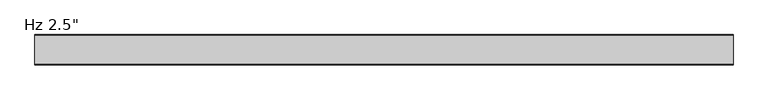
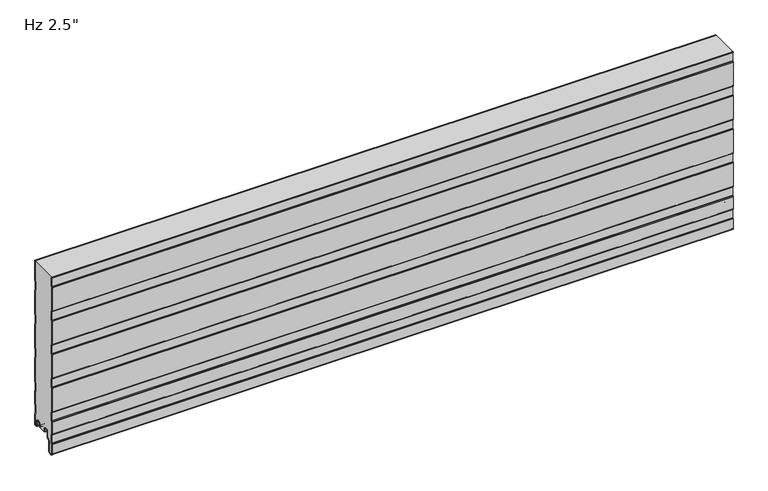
"""IFC4 building model written with IfcOpenShell, lengths in millimetres: plate geometry."""

from ifc_helpers import new_model, si_unit, point, frame, frame_2d, origin, place, context, project, spatial, polyline, circle_curve, trimmed, segment, composite_curve, outline, extrude, source, transform, mapped, element, save
from ifc_brep_helpers import plane_surface, cylinder_surface, revolved_surface, advanced_brep


def plate_c5a37403(model_context):
    return source(origin(), model_context, "Body", "SolidModel", [
        extrude(outline(composite_curve([segment(trimmed(circle_curve(frame_2d((-62.0998717, -10.6415934)), 1.3998661), [point((-63.4997378, -10.6415934))], [point((-63.0324955, -9.5976403))], False, "CARTESIAN"), True, "CONTINUOUS"), segment(polyline([(-63.0324955, -9.5976403), (-62.2997693, -8.8649141), (-62.2997693, 10.0260713), (-63.0327349, 10.7590369)]), True, "CONTINUOUS"), segment(trimmed(circle_curve(frame_2d((-62.1000237, 11.8030877)), 1.3999972), [point((-63.0327349, 10.7590369))], [point((-63.5, 11.810741))], False, "CARTESIAN"), True, "CONTINUOUS"), segment(polyline([(-63.5, 11.810741), (-63.5, 40.1582542)]), True, "CONTINUOUS"), segment(trimmed(circle_curve(frame_2d((-62.1000028, 40.1582542)), 1.3999972), [point((-63.5, 40.1582542))], [point((-63.032714, 41.202305))], False, "CARTESIAN"), True, "CONTINUOUS"), segment(polyline([(-63.032714, 41.202305), (-62.2997693, 41.9352497), (-62.2997693, 60.8259189), (-63.0327349, 61.5588845)]), True, "CONTINUOUS"), segment(trimmed(circle_curve(frame_2d((-62.1000237, 62.6029353)), 1.3999972), [point((-63.0327349, 61.5588845))], [point((-63.5, 62.6105886))], False, "CARTESIAN"), True, "CONTINUOUS"), segment(polyline([(-63.5, 62.6105886), (-63.5, 116.3581018)]), True, "CONTINUOUS"), segment(trimmed(circle_curve(frame_2d((-62.1000028, 116.3581018)), 1.3999972), [point((-63.5, 116.3581018))], [point((-63.032714, 117.4021526))], False, "CARTESIAN"), True, "CONTINUOUS"), segment(polyline([(-63.032714, 117.4021526), (-62.2997693, 118.1350973), (-62.2997693, 137.0257665), (-63.0327349, 137.7587321)]), True, "CONTINUOUS"), segment(trimmed(circle_curve(frame_2d((-62.1000237, 138.8027829)), 1.3999972), [point((-63.0327349, 137.7587321))], [point((-63.5, 138.8104362))], False, "CARTESIAN"), True, "CONTINUOUS"), segment(polyline([(-63.5, 138.8104362), (-63.5, 192.5579494)]), True, "CONTINUOUS"), segment(trimmed(circle_curve(frame_2d((-62.1000028, 192.5579494)), 1.3999972), [point((-63.5, 192.5579494))], [point((-63.032714, 193.6020002))], False, "CARTESIAN"), True, "CONTINUOUS"), segment(polyline([(-63.032714, 193.6020002), (-62.2997693, 194.3349449), (-62.2997693, 213.2256141), (-63.0327349, 213.9585797)]), True, "CONTINUOUS"), segment(trimmed(circle_curve(frame_2d((-62.1000237, 215.0026305)), 1.3999972), [point((-63.0327349, 213.9585797))], [point((-63.5, 215.0102838))], False, "CARTESIAN"), True, "CONTINUOUS"), segment(polyline([(-63.5, 215.0102838), (-63.5, 268.757797)]), True, "CONTINUOUS"), segment(trimmed(circle_curve(frame_2d((-62.1000028, 268.757797)), 1.3999972), [point((-63.5, 268.757797))], [point((-63.032714, 269.8018478))], False, "CARTESIAN"), True, "CONTINUOUS"), segment(polyline([(-63.032714, 269.8018478), (-62.2997693, 270.5347925), (-62.2997693, 289.4254617), (-63.0327349, 290.1584273)]), True, "CONTINUOUS"), segment(trimmed(circle_curve(frame_2d((-62.1000237, 291.2024781)), 1.3999972), [point((-63.0327349, 290.1584273))], [point((-63.5, 291.2101314))], False, "CARTESIAN"), True, "CONTINUOUS"), segment(polyline([(-63.5, 291.2101314), (-63.5, 344.9576446)]), True, "CONTINUOUS"), segment(trimmed(circle_curve(frame_2d((-62.1000028, 344.9576446)), 1.3999972), [point((-63.5, 344.9576446))], [point((-63.032714, 346.0016954))], False, "CARTESIAN"), True, "CONTINUOUS"), segment(polyline([(-63.032714, 346.0016954), (-62.2997693, 346.7346401), (-62.2997693, 365.6253093), (-63.0327349, 366.3582749)]), True, "CONTINUOUS"), segment(trimmed(circle_curve(frame_2d((-62.1000237, 367.4023257)), 1.3999972), [point((-63.0327349, 366.3582749))], [point((-63.5, 367.409979))], False, "CARTESIAN"), True, "CONTINUOUS"), segment(polyline([(-63.5, 367.409979), (-63.5, 368.0), (-62.5, 368.0), (-62.5, 367.240544), (-61.2997693, 366.0403133), (-61.2997693, 346.3209008), (-62.5, 345.1206701), (-62.5, 291.0405383), (-61.2997693, 289.8403076), (-61.2997693, 270.1208951), (-62.5, 268.9206644), (-62.5, 214.8405326), (-61.2997693, 213.6403019), (-61.2997693, 193.9208894), (-62.5, 192.7206587), (-62.5, 138.6405269), (-61.2997693, 137.4402962), (-61.2997693, 117.7208837), (-62.5, 116.520653), (-62.5, 62.4405213), (-61.2997693, 61.2402905), (-61.2997693, 41.520878), (-62.5, 40.3206473), (-62.5, 11.6405156), (-61.2997693, 10.4402849), (-61.2997693, -9.2791277), (-62.4997378, -10.4790962), (-62.4997378, -32.4521176)]), True, "CONTINUOUS"), segment(trimmed(circle_curve(frame_2d((-59.9294985, -32.4521176)), 2.5702393), [point((-62.4997378, -32.4521176))], [point((-59.7054129, -35.0125699))], True, "CARTESIAN"), True, "CONTINUOUS"), segment(polyline([(-59.7054129, -35.0125699), (-54.723592, -34.5765709)]), True, "CONTINUOUS"), segment(trimmed(circle_curve(frame_2d((-55.2049826, -31.9198392)), 2.6999926), [point((-54.723592, -34.5765709))], [point((-52.50499, -31.9198392))], True, "CARTESIAN"), True, "CONTINUOUS"), segment(polyline([(-52.50499, -31.9198392), (-52.50499, -9.8247096), (-47.0029189, -4.3226385)]), True, "CONTINUOUS"), segment(trimmed(circle_curve(frame_2d((-48.2049966, -3.1205608)), 1.6999946), [point((-47.0029189, -4.3226385))], [point((-46.505002, -3.1205608))], True, "CARTESIAN"), True, "CONTINUOUS"), segment(polyline([(-46.505002, -3.1205608), (-46.505002, 8.6903283)]), True, "CONTINUOUS"), segment(trimmed(circle_curve(frame_2d((-43.1550067, 8.6903283)), 3.3499953), [point((-46.505002, 8.6903283))], [point((-43.1550067, 12.0403236))], False, "CARTESIAN"), True, "CONTINUOUS"), segment(polyline([(-43.1550067, 12.0403236), (-38.7550155, 12.0403236)]), True, "CONTINUOUS"), segment(trimmed(circle_curve(frame_2d((-38.7550155, 8.6903283)), 3.3499953), [point((-38.7550155, 12.0403236))], [point((-35.4050202, 8.6903283))], False, "CARTESIAN"), True, "CONTINUOUS"), segment(polyline([(-35.4050202, 8.6903283), (-35.4050202, 5.9912173), (-34.0065413, 5.9912173), (-34.0065413, 2.2328239)]), True, "CONTINUOUS"), segment(trimmed(circle_curve(frame_2d((-35.206538, 2.2313092)), 1.1999976), [point((-34.0065413, 2.2328239))], [point((-35.1760161, 1.0316999))], False, "CARTESIAN"), True, "CONTINUOUS"), segment(trimmed(circle_curve(frame_2d((-35.206538, 2.2313092)), 1.1999976), [point((-35.1760161, 1.0316999))], [point((-36.4050202, 2.1710221))], False, "CARTESIAN"), True, "CONTINUOUS"), segment(polyline([(-36.4050202, 2.1710221), (-36.4050202, 8.6903283)]), True, "CONTINUOUS"), segment(trimmed(circle_curve(frame_2d((-38.7550155, 8.6903283)), 2.3499953), [point((-36.4050202, 8.6903283))], [point((-38.7550155, 11.0403236))], True, "CARTESIAN"), True, "CONTINUOUS"), segment(polyline([(-38.7550155, 11.0403236), (-43.1550067, 11.0403236)]), True, "CONTINUOUS"), segment(trimmed(circle_curve(frame_2d((-43.1550067, 8.6903283)), 2.3499953), [point((-43.1550067, 11.0403236))], [point((-45.505002, 8.6903283))], True, "CARTESIAN"), True, "CONTINUOUS"), segment(polyline([(-45.505002, 8.6903283), (-45.505002, -3.1205608)]), True, "CONTINUOUS"), segment(trimmed(circle_curve(frame_2d((-48.2049966, -3.1205608)), 2.6999946), [point((-45.505002, -3.1205608))], [point((-46.2958121, -5.0297453))], False, "CARTESIAN"), True, "CONTINUOUS"), segment(polyline([(-46.2958121, -5.0297453), (-51.1242296, -9.8581627)]), True, "CONTINUOUS"), segment(trimmed(circle_curve(frame_2d((-50.2049926, -10.7773997)), 1.2999974), [point((-51.1242296, -9.8581627))], [point((-51.50499, -10.7773997))], True, "CARTESIAN"), True, "CONTINUOUS"), segment(polyline([(-51.50499, -10.7773997), (-51.50499, -31.9198392)]), True, "CONTINUOUS"), segment(trimmed(circle_curve(frame_2d((-55.2049826, -31.9198392)), 3.6999926), [point((-51.50499, -31.9198392))], [point((-54.5941815, -35.5690675))], False, "CARTESIAN"), True, "CONTINUOUS"), segment(polyline([(-54.5941815, -35.5690675), (-59.6182281, -36.008762)]), True, "CONTINUOUS"), segment(trimmed(circle_curve(frame_2d((-59.9294985, -32.4521176)), 3.5702393), [point((-59.6182281, -36.008762))], [point((-63.4997378, -32.4521176))], False, "CARTESIAN"), True, "CONTINUOUS"), segment(polyline([(-63.4997378, -32.4521176), (-63.4997378, -10.6415934)]), True, "CONTINUOUS")], self_intersect=False)), frame((-730.0, 0.0, 0.0), z_axis=(1.0, 0.0, 0.0), x_axis=(0.0, 1.0, 0.0)), (0.0, 0.0, 1.0), 1460.0),
        advanced_brep(
        [(-730.0, -17.0015159, 2.0313088), (-730.0, -18.0015191, 1.0313115), (-730.0, -19.0015105, 2.0313088), (-730.0, -19.0015105, 6.0315124), (-730.0, -18.0015159, 6.0315124), (-730.0, -18.0015159, 8.7237222), (-730.0, -14.7015202, 12.0237179), (-730.0, -10.301529, 12.0237179), (-730.0, -7.0015335, 8.7237224), (-730.0, -7.0015335, -1.6962565), (-730.0, -5.2315393, -3.4662507), (-730.0, -0.9999916, -3.4662507), (-730.0, -0.9999916, 21.034026), (-730.0, -2.2002307, 22.4196686), (-730.0, -2.2002307, 41.7948349), (-730.0, -1.0, 43.1804678), (-730.0, -1.0, 71.8338832), (-730.0, -2.2002307, 73.2195162), (-730.0, -2.2002307, 92.5946825), (-730.0, -1.0, 93.9803154), (-730.0, -1.0, 148.0337308), (-730.0, -2.2002307, 149.4193638), (-730.0, -2.2002307, 168.7945301), (-730.0, -1.0, 170.180163), (-730.0, -1.0, 224.2335784), (-730.0, -2.2002307, 225.6192114), (-730.0, -2.2002307, 244.9943777), (-730.0, -1.0, 246.3800106), (-730.0, -1.0, 300.433426), (-730.0, -2.2002307, 301.819059), (-730.0, -2.2002307, 321.1942253), (-730.0, -1.0, 322.5798582), (-730.0, -1.0, 368.0), (-730.0, 0.0, 368.0), (-730.0, 0.0, 322.7290094), (-730.0, -0.3417885, 321.8123925), (-730.0, -1.2002307, 320.8213449), (-730.0, -1.2002307, 302.1919394), (-730.0, -0.3417885, 301.2008918), (-730.0, 0.0, 300.2842749), (-730.0, 0.0, 246.5291618), (-730.0, -0.3417885, 245.6125449), (-730.0, -1.2002307, 244.6214973), (-730.0, -1.2002307, 225.9920918), (-730.0, -0.3417885, 225.0010442), (-730.0, 0.0, 224.0844273), (-730.0, 0.0, 170.3293142), (-730.0, -0.3417885, 169.4126973), (-730.0, -1.2002307, 168.4216497), (-730.0, -1.2002307, 149.7922442), (-730.0, -0.3417885, 148.8011966), (-730.0, 0.0, 147.8845797), (-730.0, 0.0, 94.1294666), (-730.0, -0.3417885, 93.2128497), (-730.0, -1.2002307, 92.2218021), (-730.0, -1.2002307, 73.5923966), (-730.0, -0.3417885, 72.601349), (-730.0, 0.0, 71.6847321), (-730.0, 0.0, 43.329619), (-730.0, -0.3417885, 42.4130021), (-730.0, -1.2002307, 41.4219545), (-730.0, -1.2002307, 22.792549), (-730.0, -0.3417885, 21.8015014), (-730.0, 0.0, 20.8847931), (-730.0, 8.4e-06, -3.0662545), (-730.0, -1.3999878, -4.4662507), (-730.0, -5.2315393, -4.4662507), (-730.0, -8.0015335, -1.6962565), (-730.0, -8.0015335, 8.7237224), (-730.0, -10.301529, 11.0237179), (-730.0, -14.7015202, 11.0237179), (-730.0, -17.0015159, 8.7237222), (730.0, -17.0015159, 2.0313088), (730.0, -17.0015159, 8.7237222), (730.0, -14.7015202, 11.0237179), (730.0, -10.301529, 11.0237179), (730.0, -8.0015335, 8.7237224), (730.0, -8.0015335, -1.6962565), (730.0, -5.2315393, -4.4662507), (730.0, -1.3999878, -4.4662507), (730.0, 8.4e-06, -3.0662545), (730.0, 8.4e-06, 20.8848845), (730.0, -0.3417885, 21.8015014), (730.0, -1.2002307, 22.792549), (730.0, -1.2002307, 41.4219545), (730.0, -0.3417885, 42.4130021), (730.0, 0.0, 43.329619), (730.0, 0.0, 71.6847321), (730.0, -0.3417885, 72.601349), (730.0, -1.2002307, 73.5923966), (730.0, -1.2002307, 92.2218021), (730.0, -0.3417885, 93.2128497), (730.0, 0.0, 94.1294666), (730.0, 0.0, 147.8845797), (730.0, -0.3417885, 148.8011966), (730.0, -1.2002307, 149.7922442), (730.0, -1.2002307, 168.4216497), (730.0, -0.3417885, 169.4126973), (730.0, 0.0, 170.3293142), (730.0, 0.0, 224.0844273), (730.0, -0.3417885, 225.0010442), (730.0, -1.2002307, 225.9920918), (730.0, -1.2002307, 244.6214973), (730.0, -0.3417885, 245.6125449), (730.0, 0.0, 246.5291618), (730.0, 0.0, 300.2842749), (730.0, -0.3417885, 301.2008918), (730.0, -1.2002307, 302.1919394), (730.0, -1.2002307, 320.8213449), (730.0, -0.3417885, 321.8123925), (730.0, 0.0, 322.7290094), (730.0, 0.0, 368.0), (730.0, -1.0, 368.0), (730.0, -1.0, 322.5798582), (730.0, -2.2002307, 321.1942253), (730.0, -2.2002307, 301.819059), (730.0, -1.0, 300.433426), (730.0, -1.0, 246.3800106), (730.0, -2.2002307, 244.9943777), (730.0, -2.2002307, 225.6192114), (730.0, -1.0, 224.2335784), (730.0, -1.0, 170.180163), (730.0, -2.2002307, 168.7945301), (730.0, -2.2002307, 149.4193638), (730.0, -1.0, 148.0337308), (730.0, -1.0, 93.9803154), (730.0, -2.2002307, 92.5946825), (730.0, -2.2002307, 73.2195162), (730.0, -1.0, 71.8338832), (730.0, -1.0, 43.1804678), (730.0, -2.2002307, 41.7948349), (730.0, -2.2002307, 22.4196686), (730.0, -0.9999916, 21.034026), (730.0, -0.9999916, -3.4662507), (730.0, -5.2315393, -3.4662507), (730.0, -7.0015335, -1.6962565), (730.0, -7.0015335, 8.7237224), (730.0, -10.301529, 12.0237179), (730.0, -14.7015202, 12.0237179), (730.0, -18.0015159, 8.7237222), (730.0, -18.0015159, 6.0315124), (730.0, -19.0015105, 6.0315124), (730.0, -19.0015105, 2.0313088), (730.0, -18.0015192, 1.0313116)],
        [
            (0, 1, circle_curve(frame((-730.0, -18.0015132, 2.0313088), z_axis=(-1.0, 0.0, 0.0), x_axis=(0.0, 0.0, 1.0)), 0.9999973)),
            (1, 2, circle_curve(frame((-730.0, -18.0015133, 2.0313088), z_axis=(-1.0, 0.0, 0.0), x_axis=(0.0, 0.0, 1.0)), 0.9999972)),
            (2, 3),
            (3, 4),
            (4, 5),
            (5, 6, circle_curve(frame((-730.0, -14.7015202, 8.7237222), z_axis=(-1.0, 0.0, 0.0), x_axis=(0.0, 0.0, 1.0)), 3.2999957)),
            (6, 7),
            (7, 8, circle_curve(frame((-730.0, -10.301529, 8.7237224), z_axis=(-1.0, 0.0, 0.0), x_axis=(0.0, 0.0, 1.0)), 3.2999955)),
            (8, 9),
            (9, 10, circle_curve(frame((-730.0, -5.2315393, -1.6962565), z_axis=(1.0, 0.0, 0.0), x_axis=(0.0, 0.0, 1.0)), 1.7699942)),
            (10, 11),
            (11, 12),
            (12, 13),
            (13, 14),
            (14, 15),
            (15, 16),
            (16, 17),
            (17, 18),
            (18, 19),
            (19, 20),
            (20, 21),
            (21, 22),
            (22, 23),
            (23, 24),
            (24, 25),
            (25, 26),
            (26, 27),
            (27, 28),
            (28, 29),
            (29, 30),
            (30, 31),
            (31, 32),
            (32, 33),
            (33, 34),
            (34, 35, circle_curve(frame((-730.0, -1.3999972, 322.7290094), z_axis=(-1.0, 0.0, 0.0), x_axis=(0.0, 0.0, 1.0)), 1.3999972)),
            (35, 36),
            (36, 37),
            (37, 38),
            (38, 39, circle_curve(frame((-730.0, -1.3999972, 300.2842749), z_axis=(-1.0, 0.0, 0.0), x_axis=(0.0, 0.0, 1.0)), 1.3999972)),
            (39, 40),
            (40, 41, circle_curve(frame((-730.0, -1.3999972, 246.5291618), z_axis=(-1.0, 0.0, 0.0), x_axis=(0.0, 0.0, 1.0)), 1.3999972)),
            (41, 42),
            (42, 43),
            (43, 44),
            (44, 45, circle_curve(frame((-730.0, -1.3999972, 224.0844273), z_axis=(-1.0, 0.0, 0.0), x_axis=(0.0, 0.0, 1.0)), 1.3999972)),
            (45, 46),
            (46, 47, circle_curve(frame((-730.0, -1.3999972, 170.3293142), z_axis=(-1.0, 0.0, 0.0), x_axis=(0.0, 0.0, 1.0)), 1.3999972)),
            (47, 48),
            (48, 49),
            (49, 50),
            (50, 51, circle_curve(frame((-730.0, -1.3999972, 147.8845797), z_axis=(-1.0, 0.0, 0.0), x_axis=(0.0, 0.0, 1.0)), 1.3999972)),
            (51, 52),
            (52, 53, circle_curve(frame((-730.0, -1.3999972, 94.1294666), z_axis=(-1.0, 0.0, 0.0), x_axis=(0.0, 0.0, 1.0)), 1.3999972)),
            (53, 54),
            (54, 55),
            (55, 56),
            (56, 57, circle_curve(frame((-730.0, -1.3999972, 71.6847321), z_axis=(-1.0, 0.0, 0.0), x_axis=(0.0, 0.0, 1.0)), 1.3999972)),
            (57, 58),
            (58, 59, circle_curve(frame((-730.0, -1.3999972, 43.329619), z_axis=(-1.0, 0.0, 0.0), x_axis=(0.0, 0.0, 1.0)), 1.3999972)),
            (59, 60),
            (60, 61),
            (61, 62),
            (62, 63, circle_curve(frame((-730.0, -1.3999972, 20.8848845), z_axis=(-1.0, 0.0, 0.0), x_axis=(0.0, 0.0, 1.0)), 1.3999972)),
            (63, 64),
            (64, 65, circle_curve(frame((-730.0, -1.3999878, -3.0662545), z_axis=(-1.0, 0.0, 0.0), x_axis=(0.0, 0.0, 1.0)), 1.3999962)),
            (65, 66),
            (66, 67, circle_curve(frame((-730.0, -5.2315393, -1.6962565), z_axis=(-1.0, 0.0, 0.0), x_axis=(0.0, 0.0, 1.0)), 2.7699942)),
            (67, 68),
            (68, 69, circle_curve(frame((-730.0, -10.301529, 8.7237224), z_axis=(1.0, 0.0, 0.0), x_axis=(0.0, 0.0, 1.0)), 2.2999955)),
            (69, 70),
            (70, 71, circle_curve(frame((-730.0, -14.7015202, 8.7237222), z_axis=(1.0, 0.0, 0.0), x_axis=(0.0, 0.0, 1.0)), 2.2999957)),
            (71, 0),
            (72, 73),
            (73, 74, circle_curve(frame((730.0, -14.7015202, 8.7237222), z_axis=(-1.0, 0.0, 0.0), x_axis=(0.0, 0.0, 1.0)), 2.2999957)),
            (74, 75),
            (75, 76, circle_curve(frame((730.0, -10.301529, 8.7237224), z_axis=(-1.0, 0.0, 0.0), x_axis=(0.0, 0.0, 1.0)), 2.2999955)),
            (76, 77),
            (77, 78, circle_curve(frame((730.0, -5.2315393, -1.6962565), z_axis=(1.0, 0.0, 0.0), x_axis=(0.0, 0.0, 1.0)), 2.7699942)),
            (78, 79),
            (79, 80, circle_curve(frame((730.0, -1.3999878, -3.0662545), z_axis=(1.0, 0.0, 0.0), x_axis=(0.0, 0.0, 1.0)), 1.3999962)),
            (80, 81),
            (81, 82, circle_curve(frame((730.0, -1.3999972, 20.8848845), z_axis=(1.0, 0.0, 0.0), x_axis=(0.0, 0.0, 1.0)), 1.3999972)),
            (82, 83),
            (83, 84),
            (84, 85),
            (85, 86, circle_curve(frame((730.0, -1.3999972, 43.329619), z_axis=(1.0, 0.0, 0.0), x_axis=(0.0, 0.0, 1.0)), 1.3999972)),
            (86, 87),
            (87, 88, circle_curve(frame((730.0, -1.3999972, 71.6847321), z_axis=(1.0, 0.0, 0.0), x_axis=(0.0, 0.0, 1.0)), 1.3999972)),
            (88, 89),
            (89, 90),
            (90, 91),
            (91, 92, circle_curve(frame((730.0, -1.3999972, 94.1294666), z_axis=(1.0, 0.0, 0.0), x_axis=(0.0, 0.0, 1.0)), 1.3999972)),
            (92, 93),
            (93, 94, circle_curve(frame((730.0, -1.3999972, 147.8845797), z_axis=(1.0, 0.0, 0.0), x_axis=(0.0, 0.0, 1.0)), 1.3999972)),
            (94, 95),
            (95, 96),
            (96, 97),
            (97, 98, circle_curve(frame((730.0, -1.3999972, 170.3293142), z_axis=(1.0, 0.0, 0.0), x_axis=(0.0, 0.0, 1.0)), 1.3999972)),
            (98, 99),
            (99, 100, circle_curve(frame((730.0, -1.3999972, 224.0844273), z_axis=(1.0, 0.0, 0.0), x_axis=(0.0, 0.0, 1.0)), 1.3999972)),
            (100, 101),
            (101, 102),
            (102, 103),
            (103, 104, circle_curve(frame((730.0, -1.3999972, 246.5291618), z_axis=(1.0, 0.0, 0.0), x_axis=(0.0, 0.0, 1.0)), 1.3999972)),
            (104, 105),
            (105, 106, circle_curve(frame((730.0, -1.3999972, 300.2842749), z_axis=(1.0, 0.0, 0.0), x_axis=(0.0, 0.0, 1.0)), 1.3999972)),
            (106, 107),
            (107, 108),
            (108, 109),
            (109, 110, circle_curve(frame((730.0, -1.3999972, 322.7290094), z_axis=(1.0, 0.0, 0.0), x_axis=(0.0, 0.0, 1.0)), 1.3999972)),
            (110, 111),
            (111, 112),
            (112, 113),
            (113, 114),
            (114, 115),
            (115, 116),
            (116, 117),
            (117, 118),
            (118, 119),
            (119, 120),
            (120, 121),
            (121, 122),
            (122, 123),
            (123, 124),
            (124, 125),
            (125, 126),
            (126, 127),
            (127, 128),
            (128, 129),
            (129, 130),
            (130, 131),
            (131, 132),
            (132, 133),
            (133, 134),
            (134, 135, circle_curve(frame((730.0, -5.2315393, -1.6962565), z_axis=(-1.0, 0.0, 0.0), x_axis=(0.0, 0.0, 1.0)), 1.7699942)),
            (135, 136),
            (136, 137, circle_curve(frame((730.0, -10.301529, 8.7237224), z_axis=(1.0, 0.0, 0.0), x_axis=(0.0, 0.0, 1.0)), 3.2999955)),
            (137, 138),
            (138, 139, circle_curve(frame((730.0, -14.7015202, 8.7237222), z_axis=(1.0, 0.0, 0.0), x_axis=(0.0, 0.0, 1.0)), 3.2999957)),
            (139, 140),
            (140, 141),
            (141, 142),
            (142, 143, circle_curve(frame((730.0, -18.0015133, 2.0313088), z_axis=(1.0, 0.0, 0.0), x_axis=(0.0, 0.0, 1.0)), 0.9999972)),
            (143, 72, circle_curve(frame((730.0, -18.0015132, 2.0313088), z_axis=(1.0, 0.0, 0.0), x_axis=(0.0, 0.0, 1.0)), 0.9999973)),
            (32, 112),
            (111, 33),
            (67, 77),
            (76, 68),
            (0, 72),
            (143, 1),
            (71, 73),
            (70, 74),
            (75, 69),
            (65, 79),
            (78, 66),
            (64, 80),
            (63, 81),
            (2, 142),
            (141, 3),
            (56, 88),
            (87, 57),
            (61, 83),
            (82, 62),
            (60, 84),
            (58, 86),
            (85, 59),
            (50, 94),
            (93, 51),
            (54, 90),
            (89, 55),
            (52, 92),
            (91, 53),
            (44, 100),
            (99, 45),
            (48, 96),
            (95, 49),
            (46, 98),
            (97, 47),
            (38, 106),
            (105, 39),
            (42, 102),
            (101, 43),
            (40, 104),
            (103, 41),
            (36, 108),
            (107, 37),
            (34, 110),
            (109, 35),
            (27, 117),
            (116, 28),
            (115, 29),
            (114, 30),
            (113, 31),
            (26, 118),
            (25, 119),
            (24, 120),
            (23, 121),
            (22, 122),
            (21, 123),
            (20, 124),
            (19, 125),
            (18, 126),
            (17, 127),
            (16, 128),
            (15, 129),
            (14, 130),
            (140, 4),
            (139, 5),
            (138, 6),
            (137, 7),
            (136, 8),
            (135, 9),
            (12, 132),
            (131, 13),
            (11, 133),
            (10, 134),
        ],
        [
            plane_surface(frame((-730.0, 0.0, 508.0), z_axis=(-1.0, 0.0, 0.0), x_axis=(0.0, 1.0, 0.0))),
            plane_surface(frame((730.0, 0.0, 508.0), z_axis=(1.0, 0.0, 0.0), x_axis=(0.0, 1.0, 0.0))),
            plane_surface(frame((730.0, 10.0, 368.0), z_axis=(0.0, 0.0, 1.0), x_axis=(-1.0, 0.0, 0.0))),
            plane_surface(frame((-730.0, -8.0015335, 8.7237224), z_axis=(0.0, -1.0, 0.0), x_axis=(1.0, 0.0, 0.0))),
            cylinder_surface(frame((-730.0, -18.0015132, 2.0313088), z_axis=(-1.0, 0.0, 0.0), x_axis=(0.0, 0.0, 1.0)), 0.9999973),
            plane_surface(frame((-730.0, -17.0015159, 2.0313088), z_axis=(0.0, 1.0, 0.0), x_axis=(1.0, 0.0, 0.0))),
            revolved_surface(polyline([(730.0, -14.7015202, 11.0237179), (-730.0, -14.7015202, 11.0237179)]), (-730.0, -14.7015202, 8.7237222), (1.0, 0.0, 0.0)),
            revolved_surface(polyline([(730.0, -10.301529, 11.0237179), (-730.0, -10.301529, 11.0237179)]), (-730.0, -10.301529, 8.7237224), (1.0, 0.0, 0.0)),
            plane_surface(frame((-730.0, -14.7015202, 11.0237179), z_axis=(0.0, 0.0, -1.0), x_axis=(1.0, 0.0, 0.0))),
            plane_surface(frame((-730.0, -5.2315393, -4.4662507), z_axis=(0.0, 0.0, -1.0), x_axis=(1.0, 0.0, 0.0))),
            cylinder_surface(frame((-730.0, -1.3999878, -3.0662545), z_axis=(-1.0, 0.0, 0.0), x_axis=(0.0, 0.0, 1.0)), 1.3999962),
            cylinder_surface(frame((-730.0, -5.2315393, -1.6962565), z_axis=(-1.0, 0.0, 0.0), x_axis=(0.0, 0.0, 1.0)), 2.7699942),
            plane_surface(frame((-730.0, 8.4e-06, -3.0662545), z_axis=(0.0, 1.0, 0.0), x_axis=(1.0, 0.0, 0.0))),
            plane_surface(frame((-730.0, -19.0015105, 6.0315124), z_axis=(0.0, -1.0, 0.0), x_axis=(1.0, 0.0, 0.0))),
            cylinder_surface(frame((-730.0, -18.0015133, 2.0313088), z_axis=(-1.0, 0.0, 0.0), x_axis=(0.0, 0.0, 1.0)), 0.9999972),
            cylinder_surface(frame((-730.0, -1.3999972, 71.6847321), z_axis=(-1.0, 0.0, 0.0), x_axis=(0.0, 0.0, 1.0)), 1.3999972),
            plane_surface(frame((-730.0, -0.3417885, 21.8015014), z_axis=(0.0, 0.755864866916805, 0.6547276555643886), x_axis=(1.0, 0.0, 0.0))),
            plane_surface(frame((-730.0, -1.2002307, 32.1072517), z_axis=(0.0, 1.0, 0.0), x_axis=(1.0, 0.0, 0.0))),
            cylinder_surface(frame((-730.0, -1.3999972, 20.8848845), z_axis=(-1.0, 0.0, 0.0), x_axis=(0.0, 0.0, 1.0)), 1.3999972),
            cylinder_surface(frame((-730.0, -1.3999972, 43.329619), z_axis=(-1.0, 0.0, 0.0), x_axis=(0.0, 0.0, 1.0)), 1.3999972),
            plane_surface(frame((-730.0, -1.2002307, 41.4219545), z_axis=(0.0, 0.755864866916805, -0.6547276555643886), x_axis=(1.0, 0.0, 0.0))),
            cylinder_surface(frame((-730.0, -1.3999972, 147.8845797), z_axis=(-1.0, 0.0, 0.0), x_axis=(0.0, 0.0, 1.0)), 1.3999972),
            plane_surface(frame((-730.0, -1.2002307, 82.9070993), z_axis=(0.0, 1.0, 0.0), x_axis=(1.0, 0.0, 0.0))),
            cylinder_surface(frame((-730.0, -1.3999972, 94.1294666), z_axis=(-1.0, 0.0, 0.0), x_axis=(0.0, 0.0, 1.0)), 1.3999972),
            plane_surface(frame((-730.0, -0.3417885, 72.601349), z_axis=(0.0, 0.755864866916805, 0.6547276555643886), x_axis=(1.0, 0.0, 0.0))),
            plane_surface(frame((-730.0, -1.2002307, 92.2218021), z_axis=(0.0, 0.755864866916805, -0.6547276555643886), x_axis=(1.0, 0.0, 0.0))),
            plane_surface(frame((-730.0, 0.0, 43.329619), z_axis=(0.0, 1.0, 0.0), x_axis=(1.0, 0.0, 0.0))),
            cylinder_surface(frame((-730.0, -1.3999972, 224.0844273), z_axis=(-1.0, 0.0, 0.0), x_axis=(0.0, 0.0, 1.0)), 1.3999972),
            plane_surface(frame((-730.0, -1.2002307, 159.1069469), z_axis=(0.0, 1.0, 0.0), x_axis=(1.0, 0.0, 0.0))),
            cylinder_surface(frame((-730.0, -1.3999972, 170.3293142), z_axis=(-1.0, 0.0, 0.0), x_axis=(0.0, 0.0, 1.0)), 1.3999972),
            plane_surface(frame((-730.0, -0.3417885, 148.8011966), z_axis=(0.0, 0.755864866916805, 0.6547276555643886), x_axis=(1.0, 0.0, 0.0))),
            plane_surface(frame((-730.0, -1.2002307, 168.4216497), z_axis=(0.0, 0.755864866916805, -0.6547276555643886), x_axis=(1.0, 0.0, 0.0))),
            plane_surface(frame((-730.0, 0.0, 94.1294666), z_axis=(0.0, 1.0, 0.0), x_axis=(1.0, 0.0, 0.0))),
            cylinder_surface(frame((-730.0, -1.3999972, 300.2842749), z_axis=(-1.0, 0.0, 0.0), x_axis=(0.0, 0.0, 1.0)), 1.3999972),
            plane_surface(frame((-730.0, -1.2002307, 235.3067945), z_axis=(0.0, 1.0, 0.0), x_axis=(1.0, 0.0, 0.0))),
            cylinder_surface(frame((-730.0, -1.3999972, 246.5291618), z_axis=(-1.0, 0.0, 0.0), x_axis=(0.0, 0.0, 1.0)), 1.3999972),
            plane_surface(frame((-730.0, -0.3417885, 225.0010442), z_axis=(0.0, 0.755864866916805, 0.6547276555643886), x_axis=(1.0, 0.0, 0.0))),
            plane_surface(frame((-730.0, -1.2002307, 244.6214973), z_axis=(0.0, 0.755864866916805, -0.6547276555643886), x_axis=(1.0, 0.0, 0.0))),
            plane_surface(frame((-730.0, 0.0, 170.3293142), z_axis=(0.0, 1.0, 0.0), x_axis=(1.0, 0.0, 0.0))),
            plane_surface(frame((-730.0, -1.2002307, 311.5066421), z_axis=(0.0, 1.0, 0.0), x_axis=(1.0, 0.0, 0.0))),
            cylinder_surface(frame((-730.0, -1.3999972, 322.7290094), z_axis=(-1.0, 0.0, 0.0), x_axis=(0.0, 0.0, 1.0)), 1.3999972),
            plane_surface(frame((-730.0, -0.3417885, 301.2008918), z_axis=(0.0, 0.755864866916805, 0.6547276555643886), x_axis=(1.0, 0.0, 0.0))),
            plane_surface(frame((-730.0, -1.2002307, 320.8213449), z_axis=(0.0, 0.755864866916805, -0.6547276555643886), x_axis=(1.0, 0.0, 0.0))),
            plane_surface(frame((-730.0, 0.0, 246.5291618), z_axis=(0.0, 1.0, 0.0), x_axis=(1.0, 0.0, 0.0))),
            plane_surface(frame((-730.0, 0.0, 322.7290094), z_axis=(0.0, 1.0, 0.0), x_axis=(1.0, 0.0, 0.0))),
            plane_surface(frame((-730.0, -1.0, 300.433426), z_axis=(0.0, -1.0, 0.0), x_axis=(1.0, 0.0, 0.0))),
            plane_surface(frame((-730.0, -2.2002307, 301.819059), z_axis=(0.0, -0.755864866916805, -0.6547276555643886), x_axis=(1.0, 0.0, 0.0))),
            plane_surface(frame((-730.0, -2.2002307, 321.1942253), z_axis=(0.0, -1.0, 0.0), x_axis=(1.0, 0.0, 0.0))),
            plane_surface(frame((-730.0, -1.0, 322.5798582), z_axis=(0.0, -0.755864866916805, 0.6547276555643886), x_axis=(1.0, 0.0, 0.0))),
            plane_surface(frame((-730.0, -1.0, 376.6332736), z_axis=(0.0, -1.0, 0.0), x_axis=(1.0, 0.0, 0.0))),
            plane_surface(frame((-730.0, -1.0, 246.3800106), z_axis=(0.0, -0.755864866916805, 0.6547276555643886), x_axis=(1.0, 0.0, 0.0))),
            plane_surface(frame((-730.0, -2.2002307, 244.9943777), z_axis=(0.0, -1.0, 0.0), x_axis=(1.0, 0.0, 0.0))),
            plane_surface(frame((-730.0, -2.2002307, 225.6192114), z_axis=(0.0, -0.755864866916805, -0.6547276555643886), x_axis=(1.0, 0.0, 0.0))),
            plane_surface(frame((-730.0, -1.0, 224.2335784), z_axis=(0.0, -1.0, 0.0), x_axis=(1.0, 0.0, 0.0))),
            plane_surface(frame((-730.0, -1.0, 170.180163), z_axis=(0.0, -0.755864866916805, 0.6547276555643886), x_axis=(1.0, 0.0, 0.0))),
            plane_surface(frame((-730.0, -2.2002307, 168.7945301), z_axis=(0.0, -1.0, 0.0), x_axis=(1.0, 0.0, 0.0))),
            plane_surface(frame((-730.0, -2.2002307, 149.4193638), z_axis=(0.0, -0.755864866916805, -0.6547276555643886), x_axis=(1.0, 0.0, 0.0))),
            plane_surface(frame((-730.0, -1.0, 148.0337308), z_axis=(0.0, -1.0, 0.0), x_axis=(1.0, 0.0, 0.0))),
            plane_surface(frame((-730.0, -1.0, 93.9803154), z_axis=(0.0, -0.755864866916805, 0.6547276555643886), x_axis=(1.0, 0.0, 0.0))),
            plane_surface(frame((-730.0, -2.2002307, 92.5946825), z_axis=(0.0, -1.0, 0.0), x_axis=(1.0, 0.0, 0.0))),
            plane_surface(frame((-730.0, -2.2002307, 73.2195162), z_axis=(0.0, -0.755864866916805, -0.6547276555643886), x_axis=(1.0, 0.0, 0.0))),
            plane_surface(frame((-730.0, -1.0, 71.8338832), z_axis=(0.0, -1.0, 0.0), x_axis=(1.0, 0.0, 0.0))),
            plane_surface(frame((-730.0, -1.0, 43.1804678), z_axis=(0.0, -0.755864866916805, 0.6547276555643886), x_axis=(1.0, 0.0, 0.0))),
            plane_surface(frame((-730.0, -18.0015159, 6.0315124), z_axis=(0.0, 0.0, 1.0), x_axis=(1.0, 0.0, 0.0))),
            plane_surface(frame((-730.0, -18.0015159, 8.7237222), z_axis=(0.0, -1.0, 0.0), x_axis=(1.0, 0.0, 0.0))),
            cylinder_surface(frame((-730.0, -14.7015202, 8.7237222), z_axis=(-1.0, 0.0, 0.0), x_axis=(0.0, 0.0, 1.0)), 3.2999957),
            plane_surface(frame((-730.0, -10.301529, 12.0237179), z_axis=(0.0, 0.0, 1.0), x_axis=(1.0, 0.0, 0.0))),
            cylinder_surface(frame((-730.0, -10.301529, 8.7237224), z_axis=(-1.0, 0.0, 0.0), x_axis=(0.0, 0.0, 1.0)), 3.2999955),
            plane_surface(frame((-730.0, -7.0015335, -1.6962565), z_axis=(0.0, 1.0, 0.0), x_axis=(1.0, 0.0, 0.0))),
            plane_surface(frame((-730.0, -2.2002307, 22.4196686), z_axis=(0.0, -0.755864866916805, -0.6547276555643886), x_axis=(1.0, 0.0, 0.0))),
            plane_surface(frame((-730.0, -2.2002307, 41.7948349), z_axis=(0.0, -1.0, 0.0), x_axis=(1.0, 0.0, 0.0))),
            plane_surface(frame((-730.0, -0.9999916, 21.034026), z_axis=(0.0, -1.0, 0.0), x_axis=(1.0, 0.0, 0.0))),
            plane_surface(frame((-730.0, -0.9999916, -3.4662507), z_axis=(0.0, 0.0, 1.0), x_axis=(1.0, 0.0, 0.0))),
            revolved_surface(polyline([(730.0, -5.2315393, 0.0737376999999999), (-730.0, -5.2315393, 0.0737376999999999)]), (-730.0, -5.2315393, -1.6962565), (1.0, 0.0, 0.0)),
        ],
        [
            (0, [[1, 2, 3, 4, 5, 6, 7, 8, 9, 10, 11, 12, 13, 14, 15, 16, 17, 18, 19, 20, 21, 22, 23, 24, 25, 26, 27, 28, 29, 30, 31, 32, 33, 34, 35, 36, 37, 38, 39, 40, 41, 42, 43, 44, 45, 46, 47, 48, 49, 50, 51, 52, 53, 54, 55, 56, 57, 58, 59, 60, 61, 62, 63, 64, 65, 66, 67, 68, 69, 70, 71, 72]]),
            (1, [[73, 74, 75, 76, 77, 78, 79, 80, 81, 82, 83, 84, 85, 86, 87, 88, 89, 90, 91, 92, 93, 94, 95, 96, 97, 98, 99, 100, 101, 102, 103, 104, 105, 106, 107, 108, 109, 110, 111, 112, 113, 114, 115, 116, 117, 118, 119, 120, 121, 122, 123, 124, 125, 126, 127, 128, 129, 130, 131, 132, 133, 134, 135, 136, 137, 138, 139, 140, 141, 142, 143, 144]]),
            (2, [[145, -112, 146, -33]]),
            (3, [[147, -77, 148, -68]]),
            (4, [[149, -144, 150, -1]]),
            (5, [[151, -73, -149, -72]]),
            (6, [[152, -74, -151, -71]]),
            (7, [[-148, -76, 153, -69]]),
            (8, [[-153, -75, -152, -70]]),
            (9, [[154, -79, 155, -66]]),
            (10, [[156, -80, -154, -65]]),
            (11, [[-155, -78, -147, -67]]),
            (12, [[157, -81, -156, -64]]),
            (13, [[158, -142, 159, -3]]),
            (14, [[-150, -143, -158, -2]]),
            (15, [[160, -88, 161, -57]]),
            (16, [[162, -83, 163, -62]]),
            (17, [[164, -84, -162, -61]]),
            (18, [[-163, -82, -157, -63]]),
            (19, [[165, -86, 166, -59]]),
            (20, [[-166, -85, -164, -60]]),
            (21, [[167, -94, 168, -51]]),
            (22, [[169, -90, 170, -55]]),
            (23, [[171, -92, 172, -53]]),
            (24, [[-170, -89, -160, -56]]),
            (25, [[-172, -91, -169, -54]]),
            (26, [[-161, -87, -165, -58]]),
            (27, [[173, -100, 174, -45]]),
            (28, [[175, -96, 176, -49]]),
            (29, [[177, -98, 178, -47]]),
            (30, [[-176, -95, -167, -50]]),
            (31, [[-178, -97, -175, -48]]),
            (32, [[-168, -93, -171, -52]]),
            (33, [[179, -106, 180, -39]]),
            (34, [[181, -102, 182, -43]]),
            (35, [[183, -104, 184, -41]]),
            (36, [[-182, -101, -173, -44]]),
            (37, [[-184, -103, -181, -42]]),
            (38, [[-174, -99, -177, -46]]),
            (39, [[185, -108, 186, -37]]),
            (40, [[187, -110, 188, -35]]),
            (41, [[-186, -107, -179, -38]]),
            (42, [[-188, -109, -185, -36]]),
            (43, [[-180, -105, -183, -40]]),
            (44, [[-34, -146, -111, -187]]),
            (45, [[189, -117, 190, -28]]),
            (46, [[-190, -116, 191, -29]]),
            (47, [[-191, -115, 192, -30]]),
            (48, [[-192, -114, 193, -31]]),
            (49, [[-113, -145, -32, -193]]),
            (50, [[194, -118, -189, -27]]),
            (51, [[195, -119, -194, -26]]),
            (52, [[196, -120, -195, -25]]),
            (53, [[197, -121, -196, -24]]),
            (54, [[198, -122, -197, -23]]),
            (55, [[199, -123, -198, -22]]),
            (56, [[200, -124, -199, -21]]),
            (57, [[201, -125, -200, -20]]),
            (58, [[202, -126, -201, -19]]),
            (59, [[203, -127, -202, -18]]),
            (60, [[204, -128, -203, -17]]),
            (61, [[205, -129, -204, -16]]),
            (62, [[206, -130, -205, -15]]),
            (63, [[-159, -141, 207, -4]]),
            (64, [[-207, -140, 208, -5]]),
            (65, [[-208, -139, 209, -6]]),
            (66, [[-209, -138, 210, -7]]),
            (67, [[-210, -137, 211, -8]]),
            (68, [[-211, -136, 212, -9]]),
            (69, [[213, -132, 214, -13]]),
            (70, [[-214, -131, -206, -14]]),
            (71, [[215, -133, -213, -12]]),
            (72, [[216, -134, -215, -11]]),
            (73, [[-212, -135, -216, -10]]),
        ],
    ),
        extrude(outline(composite_curve([segment(trimmed(circle_curve(frame_2d((-35.206538, 2.2313092)), 1.1999976), [point((-35.1760161, 1.0316999))], [point((-34.0065413, 2.2328239))], True, "CARTESIAN"), True, "CONTINUOUS"), segment(polyline([(-34.0065413, 2.2328239), (-34.0065413, 5.9912173), (-35.4050202, 5.9912173), (-35.4050202, 8.6903283)]), True, "CONTINUOUS"), segment(trimmed(circle_curve(frame_2d((-38.7550155, 8.6903283)), 3.3499953), [point((-35.4050202, 8.6903283))], [point((-38.7550155, 12.0403236))], True, "CARTESIAN"), True, "CONTINUOUS"), segment(polyline([(-38.7550155, 12.0403236), (-43.1550067, 12.0403236)]), True, "CONTINUOUS"), segment(trimmed(circle_curve(frame_2d((-43.1550067, 8.6903283)), 3.3499953), [point((-43.1550067, 12.0403236))], [point((-46.505002, 8.6903283))], True, "CARTESIAN"), True, "CONTINUOUS"), segment(polyline([(-46.505002, 8.6903283), (-46.505002, -3.1205608)]), True, "CONTINUOUS"), segment(trimmed(circle_curve(frame_2d((-48.2049966, -3.1205608)), 1.6999946), [point((-46.505002, -3.1205608))], [point((-47.0029189, -4.3226385))], False, "CARTESIAN"), True, "CONTINUOUS"), segment(polyline([(-47.0029189, -4.3226385), (-52.50499, -9.8247096), (-52.50499, -31.9198392)]), True, "CONTINUOUS"), segment(trimmed(circle_curve(frame_2d((-55.2049826, -31.9198392)), 2.6999926), [point((-52.50499, -31.9198392))], [point((-54.723592, -34.5765709))], False, "CARTESIAN"), True, "CONTINUOUS"), segment(polyline([(-54.723592, -34.5765709), (-59.7054129, -35.0125699)]), True, "CONTINUOUS"), segment(trimmed(circle_curve(frame_2d((-59.9294985, -32.4521176)), 2.5702393), [point((-59.7054129, -35.0125699))], [point((-62.4997378, -32.4521176))], False, "CARTESIAN"), True, "CONTINUOUS"), segment(polyline([(-62.4997378, -32.4521176), (-62.4997378, -10.4790962), (-61.2997693, -9.2791277), (-61.2997693, 10.4402849), (-62.5, 11.6405156), (-62.5, 40.3206473), (-61.2997693, 41.520878), (-61.2997693, 61.2402905), (-62.5, 62.4405213), (-62.5, 116.520653), (-61.2997693, 117.7208837), (-61.2997693, 137.4402962), (-62.5, 138.6405269), (-62.5, 192.7206587), (-61.2997693, 193.9208894), (-61.2997693, 213.6403019), (-62.5, 214.8405326), (-62.5, 268.9206644), (-61.2997693, 270.1208951), (-61.2997693, 289.8403076), (-62.5, 291.0405383), (-62.5, 345.1206701), (-61.2997693, 346.3209008), (-61.2997693, 366.0403133), (-62.5, 367.240544), (-62.5, 368.0), (-1.0, 368.0), (-1.0, 322.5798583), (-2.2002307, 321.1942253), (-2.2002307, 301.819059), (-1.0, 300.4334261), (-1.0, 246.3800107), (-2.2002307, 244.9943777), (-2.2002307, 225.6192114), (-1.0, 224.2335785), (-1.0, 170.1801631), (-2.2002307, 168.7945301), (-2.2002307, 149.4193638), (-1.0, 148.0337309), (-1.0, 93.9803155), (-2.2002307, 92.5946825), (-2.2002307, 73.2195162), (-1.0, 71.8338833), (-1.0, 43.1804679), (-2.2002307, 41.7948349), (-2.2002307, 22.4196686), (-0.9999916, 21.034026), (-0.9999916, -3.4662506), (-5.2315389, -3.4662506)]), True, "CONTINUOUS"), segment(trimmed(circle_curve(frame_2d((-5.2315389, -1.6962564)), 1.7699942), [point((-5.2315389, -3.4662506))], [point((-7.0015331, -1.6962564))], False, "CARTESIAN"), True, "CONTINUOUS"), segment(polyline([(-7.0015331, -1.6962564), (-7.0015331, 8.7237221)]), True, "CONTINUOUS"), segment(trimmed(circle_curve(frame_2d((-10.301529, 8.7237221)), 3.2999959), [point((-7.0015331, 8.7237221))], [point((-10.301529, 12.023718))], True, "CARTESIAN"), True, "CONTINUOUS"), segment(polyline([(-10.301529, 12.023718), (-14.7015202, 12.023718)]), True, "CONTINUOUS"), segment(trimmed(circle_curve(frame_2d((-14.7015202, 8.7237223)), 3.2999957), [point((-14.7015202, 12.023718))], [point((-18.0015159, 8.7237223))], True, "CARTESIAN"), True, "CONTINUOUS"), segment(polyline([(-18.0015159, 8.7237223), (-18.0015159, 6.0315125), (-19.0015105, 6.0315125), (-19.0015105, 2.0313088)]), True, "CONTINUOUS"), segment(trimmed(circle_curve(frame_2d((-18.0015133, 2.0313088)), 0.9999972), [point((-19.0015105, 2.0313088))], [point((-18.0015192, 1.0313116))], True, "CARTESIAN"), True, "CONTINUOUS"), segment(polyline([(-18.0015192, 1.0313116), (-19.0328308, 0.0), (-34.1443162, 0.0), (-35.1760161, 1.0316999)]), True, "CONTINUOUS")], self_intersect=False)), frame((-730.0, 0.0, 0.0), z_axis=(1.0, 0.0, 0.0), x_axis=(0.0, 1.0, 0.0)), (0.0, 0.0, 1.0), 1460.0),
    ])


if __name__ == "__main__":
    model = new_model("IFC4")
    model_context = context("Model", 3, world=origin())
    ifc_project = project(units=[si_unit("LENGTHUNIT", "METRE", prefix="MILLI")], contexts=[model_context])
    site = spatial("IfcSite", under=ifc_project)
    building = spatial("IfcBuilding", under=site)
    placement = place(None, origin())
    plate_shape = plate_c5a37403(model_context)
    element("IfcPlate", 1, ObjectType="KIP-40-Karrier-KP-R19-CP-Hz-SL3-8in_SL : Hz 2.5\"", at=placement, inside=building, context=model_context, shape_type="MappedRepresentation", body=[
        mapped(plate_shape, transform((0.0, 0.0, 0.0), x_axis=(1.0, 0.0, 0.0), y_axis=(0.0, 1.0, 0.0), z_axis=(0.0, 0.0, 1.0))),
    ])
    save(model, "model.ifc")
